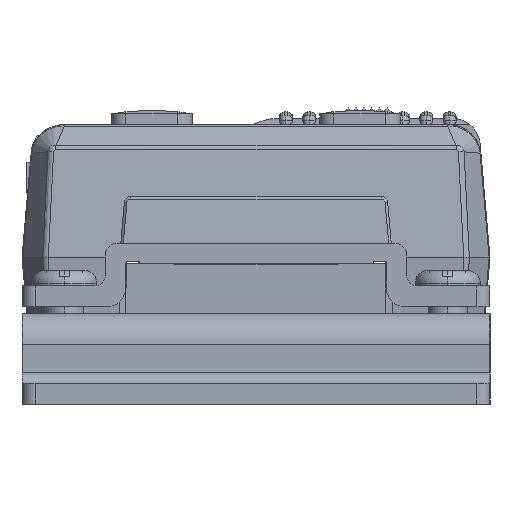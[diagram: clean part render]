
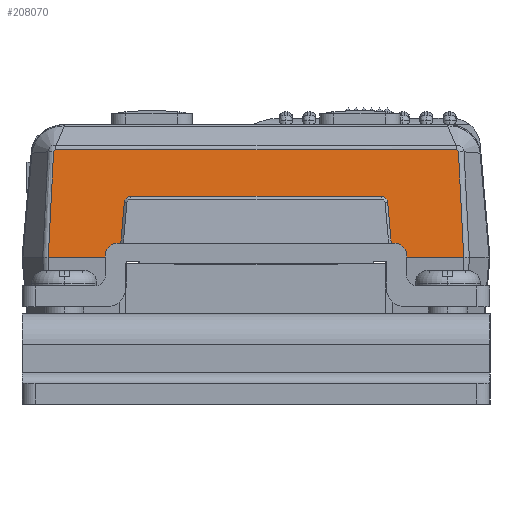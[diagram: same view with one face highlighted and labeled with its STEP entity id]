
A CAD part, left-side view. The second image highlights one B-rep face of the part: STEP entity #208070.
In plain terms, the highlighted planar face has unit normal (-0.996, 0, 0.087) as drawn and (0, 0.996, 0.087) by its records, which use the part's own axes.
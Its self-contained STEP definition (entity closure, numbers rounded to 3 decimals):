
#39040=CARTESIAN_POINT('',(52.042,105.861,
6.8));
#39050=VERTEX_POINT('',#39040);
#39080=CARTESIAN_POINT('',(62.542,105.861,6.8));
#39090=DIRECTION('',(-1.,0.,0.));
#39100=VECTOR('',#39090,1.);
#39110=LINE('',#39080,#39100);
#39120=CARTESIAN_POINT('',(46.562,105.861,
6.8));
#39130=VERTEX_POINT('',#39120);
#39140=EDGE_CURVE('',#39050,#39130,#39110,.T.);
#43230=CARTESIAN_POINT('',(78.523,105.861,
6.8));
#43240=VERTEX_POINT('',#43230);
#54510=CARTESIAN_POINT('',(73.042,105.861,6.8));
#54520=VERTEX_POINT('',#54510);
#54530=EDGE_CURVE('',#43240,#54520,#39110,.T.);
#206640=CARTESIAN_POINT('',(62.542,105.415,11.9));
#206650=DIRECTION('',(0.,0.996,0.087));
#206660=DIRECTION('',(0.,0.087,-0.996));
#206670=AXIS2_PLACEMENT_3D('',#206640,#206650,#206660);
#206680=PLANE('',#206670);
#206690=CARTESIAN_POINT('',(0.,105.137,15.078));
#206700=DIRECTION('',(-1.,0.,0.));
#206710=VECTOR('',#206700,1.);
#206720=LINE('',#206690,#206710);
#206730=CARTESIAN_POINT('',(77.928,105.137,
15.078));
#206740=VERTEX_POINT('',#206730);
#206750=CARTESIAN_POINT('',(47.157,105.137,
15.078));
#206760=VERTEX_POINT('',#206750);
#206770=EDGE_CURVE('',#206740,#206760,#206720,.T.);
#206780=ORIENTED_EDGE('',*,*,#206770,.F.);
#206790=CARTESIAN_POINT('',(46.972,105.152,
14.908));
#206800=CARTESIAN_POINT('',(46.972,105.151,
14.915));
#206810=CARTESIAN_POINT('',(46.973,105.151,
14.921));
#206820=CARTESIAN_POINT('',(46.975,105.149,
14.935));
#206830=CARTESIAN_POINT('',(46.977,105.149,
14.942));
#206840=CARTESIAN_POINT('',(46.981,105.148,
14.956));
#206850=CARTESIAN_POINT('',(46.983,105.147,
14.963));
#206860=CARTESIAN_POINT('',(46.989,105.146,
14.976));
#206870=CARTESIAN_POINT('',(46.992,105.145,
14.982));
#206880=CARTESIAN_POINT('',(47.,105.144,
14.995));
#206890=CARTESIAN_POINT('',(47.004,105.144,
15.));
#206900=CARTESIAN_POINT('',(47.013,105.143,
15.012));
#206910=CARTESIAN_POINT('',(47.017,105.142,
15.017));
#206920=CARTESIAN_POINT('',(47.028,105.141,
15.028));
#206930=CARTESIAN_POINT('',(47.033,105.141,
15.032));
#206940=CARTESIAN_POINT('',(47.044,105.14,
15.041));
#206950=CARTESIAN_POINT('',(47.05,105.14,
15.045));
#206960=CARTESIAN_POINT('',(47.069,105.139,
15.057));
#206970=CARTESIAN_POINT('',(47.082,105.138,
15.064));
#206980=CARTESIAN_POINT('',(47.104,105.138,
15.071));
#206990=CARTESIAN_POINT('',(47.111,105.137,
15.073));
#207000=CARTESIAN_POINT('',(47.124,105.137,
15.075));
#207010=CARTESIAN_POINT('',(47.13,105.137,
15.076));
#207020=CARTESIAN_POINT('',(47.14,105.137,
15.077));
#207030=CARTESIAN_POINT('',(47.143,105.137,
15.077));
#207040=CARTESIAN_POINT('',(47.15,105.137,
15.078));
#207050=CARTESIAN_POINT('',(47.153,105.137,
15.078));
#207060=CARTESIAN_POINT('',(47.157,105.137,
15.078));
#207070=B_SPLINE_CURVE_WITH_KNOTS('',3,(#206790,#206800,#206810,#206820,
#206830,#206840,#206850,#206860,#206870,#206880,#206890,#206900,#206910,
#206920,#206930,#206940,#206950,#206960,#206970,#206980,#206990,#207000,
#207010,#207020,#207030,#207040,#207050,#207060),.UNSPECIFIED.,.F.,.F.,(
4,2,2,2,2,2,2,2,2,2,2,2,2,4),(0.,0.043,0.089,
0.135,0.18,0.225,0.27,
0.315,0.359,0.45,0.495,
0.531,0.551,0.571),.UNSPECIFIED.);
#207080=CARTESIAN_POINT('',(46.972,105.152,
14.908));
#207090=VERTEX_POINT('',#207080);
#207100=EDGE_CURVE('',#207090,#206760,#207070,.T.);
#207110=ORIENTED_EDGE('',*,*,#207100,.T.);
#207120=CARTESIAN_POINT('',(46.972,105.152,
14.908));
#207130=CARTESIAN_POINT('',(46.971,105.153,
14.891));
#207140=CARTESIAN_POINT('',(46.97,105.155,
14.875));
#207150=CARTESIAN_POINT('',(46.825,105.406,
12.006));
#207160=CARTESIAN_POINT('',(46.681,105.655,
9.154));
#207170=CARTESIAN_POINT('',(46.537,105.905,
6.303));
#207180=B_SPLINE_CURVE_WITH_KNOTS('',3,(#207120,#207130,#207140,#207150,
#207160,#207170),.UNSPECIFIED.,.F.,.F.,(4,2,4),(0.,0.05,
8.649),.UNSPECIFIED.);
#207190=EDGE_CURVE('',#207090,#39130,#207180,.T.);
#207200=ORIENTED_EDGE('',*,*,#207190,.F.);
#207210=ORIENTED_EDGE('',*,*,#39140,.T.);
#207220=CARTESIAN_POINT('',(51.445,106.456,0.));
#207230=DIRECTION('',(-0.087,0.087,
-0.992));
#207240=VECTOR('',#207230,1.);
#207250=LINE('',#207220,#207240);
#207260=CARTESIAN_POINT('',(52.414,105.492,
11.026));
#207270=VERTEX_POINT('',#207260);
#207280=EDGE_CURVE('',#207270,#39050,#207250,.T.);
#207290=ORIENTED_EDGE('',*,*,#207280,.T.);
#207300=CARTESIAN_POINT('',(52.912,105.495,
10.982));
#207310=DIRECTION('',(0.,0.996,0.087));
#207320=DIRECTION('',(0.,0.087,
-0.996));
#207330=AXIS2_PLACEMENT_3D('',#207300,#207310,#207320);
#207340=ELLIPSE('',#207330,0.502,0.5);
#207350=CARTESIAN_POINT('',(52.912,105.452,
11.482));
#207360=VERTEX_POINT('',#207350);
#207370=EDGE_CURVE('',#207270,#207360,#207340,.T.);
#207380=ORIENTED_EDGE('',*,*,#207370,.F.);
#207390=CARTESIAN_POINT('',(0.,105.452,11.482));
#207400=DIRECTION('',(-1.,0.,0.));
#207410=VECTOR('',#207400,1.);
#207420=LINE('',#207390,#207410);
#207430=CARTESIAN_POINT('',(72.173,105.452,
11.482));
#207440=VERTEX_POINT('',#207430);
#207450=EDGE_CURVE('',#207440,#207360,#207420,.T.);
#207460=ORIENTED_EDGE('',*,*,#207450,.T.);
#207470=CARTESIAN_POINT('',(72.173,105.495,
10.982));
#207480=DIRECTION('',(0.,0.996,0.087));
#207490=DIRECTION('',(0.,0.087,
-0.996));
#207500=AXIS2_PLACEMENT_3D('',#207470,#207480,#207490);
#207510=ELLIPSE('',#207500,0.502,0.5);
#207520=CARTESIAN_POINT('',(72.671,105.492,
11.026));
#207530=VERTEX_POINT('',#207520);
#207540=EDGE_CURVE('',#207440,#207530,#207510,.T.);
#207550=ORIENTED_EDGE('',*,*,#207540,.F.);
#207560=CARTESIAN_POINT('',(73.64,106.456,0.));
#207570=DIRECTION('',(0.087,0.087,
-0.992));
#207580=VECTOR('',#207570,1.);
#207590=LINE('',#207560,#207580);
#207600=EDGE_CURVE('',#207530,#54520,#207590,.T.);
#207610=ORIENTED_EDGE('',*,*,#207600,.F.);
#207620=ORIENTED_EDGE('',*,*,#54530,.T.);
#207630=CARTESIAN_POINT('',(78.113,105.152,
14.908));
#207640=CARTESIAN_POINT('',(78.114,105.153,
14.891));
#207650=CARTESIAN_POINT('',(78.115,105.155,
14.875));
#207660=CARTESIAN_POINT('',(78.26,105.406,
12.006));
#207670=CARTESIAN_POINT('',(78.404,105.655,
9.154));
#207680=CARTESIAN_POINT('',(78.548,105.905,
6.303));
#207690=B_SPLINE_CURVE_WITH_KNOTS('',3,(#207630,#207640,#207650,#207660,
#207670,#207680),.UNSPECIFIED.,.F.,.F.,(4,2,4),(0.,0.05,
8.649),.UNSPECIFIED.);
#207700=CARTESIAN_POINT('',(78.113,105.152,
14.908));
#207710=VERTEX_POINT('',#207700);
#207720=EDGE_CURVE('',#207710,#43240,#207690,.T.);
#207730=ORIENTED_EDGE('',*,*,#207720,.T.);
#207740=CARTESIAN_POINT('',(77.928,105.137,
15.078));
#207750=CARTESIAN_POINT('',(77.931,105.137,
15.078));
#207760=CARTESIAN_POINT('',(77.935,105.137,
15.078));
#207770=CARTESIAN_POINT('',(77.942,105.137,
15.077));
#207780=CARTESIAN_POINT('',(77.945,105.137,
15.077));
#207790=CARTESIAN_POINT('',(77.954,105.137,
15.076));
#207800=CARTESIAN_POINT('',(77.961,105.137,
15.075));
#207810=CARTESIAN_POINT('',(77.974,105.137,
15.073));
#207820=CARTESIAN_POINT('',(77.981,105.138,
15.071));
#207830=CARTESIAN_POINT('',(78.002,105.138,
15.064));
#207840=CARTESIAN_POINT('',(78.016,105.139,
15.057));
#207850=CARTESIAN_POINT('',(78.035,105.14,
15.045));
#207860=CARTESIAN_POINT('',(78.041,105.14,
15.041));
#207870=CARTESIAN_POINT('',(78.052,105.141,
15.032));
#207880=CARTESIAN_POINT('',(78.057,105.141,
15.028));
#207890=CARTESIAN_POINT('',(78.067,105.142,
15.017));
#207900=CARTESIAN_POINT('',(78.072,105.143,
15.012));
#207910=CARTESIAN_POINT('',(78.081,105.144,
15.));
#207920=CARTESIAN_POINT('',(78.085,105.144,
14.995));
#207930=CARTESIAN_POINT('',(78.092,105.145,
14.982));
#207940=CARTESIAN_POINT('',(78.096,105.146,
14.976));
#207950=CARTESIAN_POINT('',(78.102,105.147,
14.963));
#207960=CARTESIAN_POINT('',(78.104,105.148,
14.956));
#207970=CARTESIAN_POINT('',(78.108,105.149,
14.942));
#207980=CARTESIAN_POINT('',(78.11,105.149,
14.935));
#207990=CARTESIAN_POINT('',(78.112,105.151,
14.921));
#208000=CARTESIAN_POINT('',(78.113,105.151,
14.915));
#208010=CARTESIAN_POINT('',(78.113,105.152,
14.908));
#208020=B_SPLINE_CURVE_WITH_KNOTS('',3,(#207740,#207750,#207760,#207770,
#207780,#207790,#207800,#207810,#207820,#207830,#207840,#207850,#207860,
#207870,#207880,#207890,#207900,#207910,#207920,#207930,#207940,#207950,
#207960,#207970,#207980,#207990,#208000,#208010),.UNSPECIFIED.,.F.,.F.,(
4,2,2,2,2,2,2,2,2,2,2,2,2,4),(0.,0.02,0.04,
0.077,0.121,0.212,0.256
,0.301,0.346,0.391,0.437
,0.482,0.528,0.571),.UNSPECIFIED.);
#208030=EDGE_CURVE('',#206740,#207710,#208020,.T.);
#208040=ORIENTED_EDGE('',*,*,#208030,.T.);
#208050=EDGE_LOOP('',(#208040,#207730,#207620,#207610,#207550,#207460,
#207380,#207290,#207210,#207200,#207110,#206780));
#208060=FACE_OUTER_BOUND('',#208050,.T.);
#208070=ADVANCED_FACE('',(#208060),#206680,.T.);
